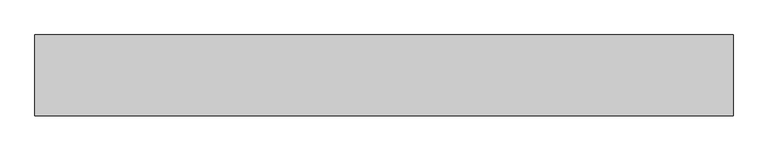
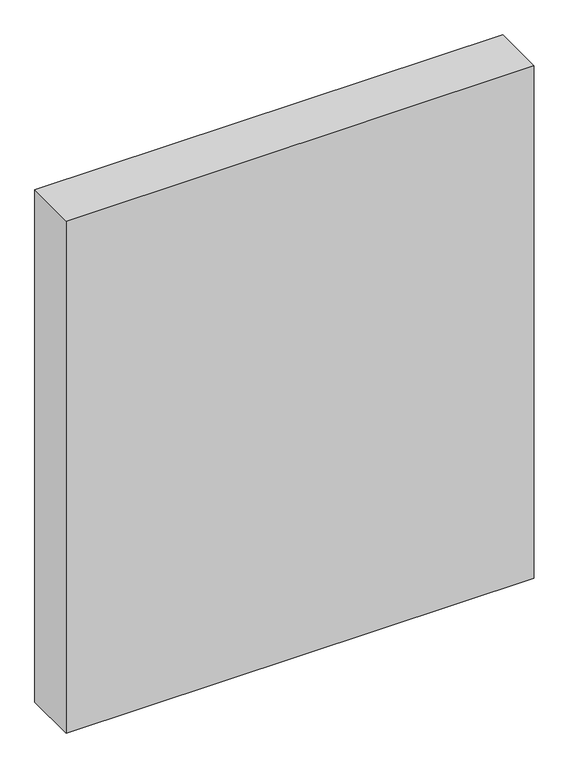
"""IFC4 building model written with IfcOpenShell, lengths in millimetres: proxy geometry."""

from ifc_helpers import new_model, si_unit, origin, origin_with_axes, place, context, project, spatial, polyline, outline, extrude, source, transform, mapped, element, save


def generic_models_1f9c2fd7(model_context):
    return source(origin(), model_context, "Body", "SweptSolid", [
        extrude(outline(polyline([(-1730.0, 0.0), (0.0, 0.0), (0.0, -200.0), (-1730.0, -200.0), (-1730.0, 0.0)])), origin_with_axes(), (0.0, 0.0, 1.0), 2000.0),
    ])


if __name__ == "__main__":
    model = new_model("IFC4")
    model_context = context("Model", 3, world=origin())
    ifc_project = project(units=[si_unit("LENGTHUNIT", "METRE", prefix="MILLI")], contexts=[model_context])
    site = spatial("IfcSite", under=ifc_project)
    building = spatial("IfcBuilding", under=site)
    placement = place(None, origin())
    generic_models_shape = generic_models_1f9c2fd7(model_context)
    element("IfcBuildingElementProxy", 1, Name="Generic Models", at=placement, inside=building, context=model_context, shape_type="MappedRepresentation", body=[
        mapped(generic_models_shape, transform((0.0, 0.0, 0.0), x_axis=(1.0, 0.0, 0.0), y_axis=(0.0, 1.0, 0.0), z_axis=(0.0, 0.0, 1.0))),
    ])
    save(model, "model.ifc")
